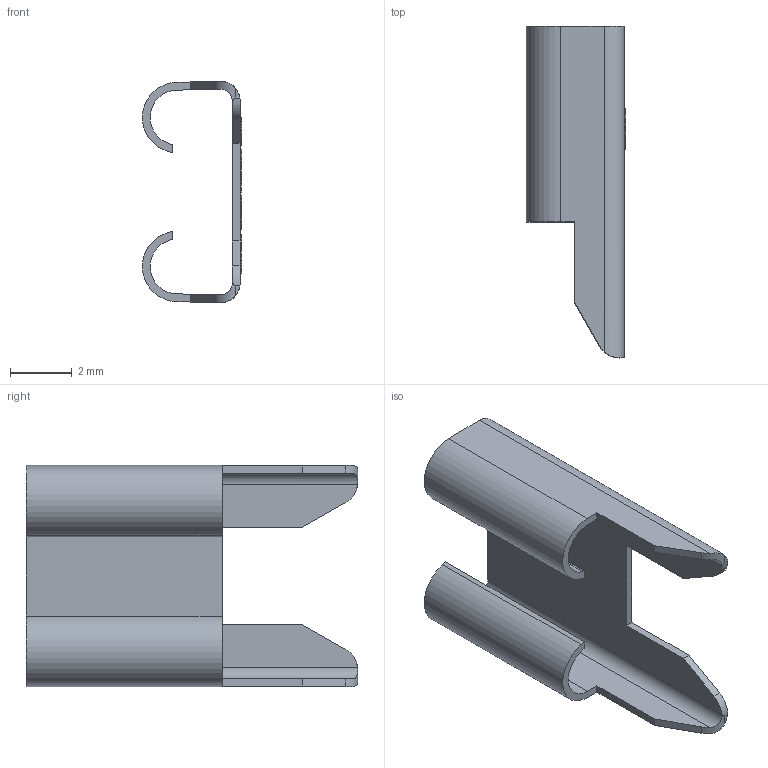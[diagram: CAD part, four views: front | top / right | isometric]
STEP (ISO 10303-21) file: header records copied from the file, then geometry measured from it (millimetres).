
FILE_DESCRIPTION(/* description */ (''),/* implementation_level */ '2;1');
FILE_NAME(/* name */ 'C:\Users\Hani\Desktop\work\CNR-01\CNR-01.stp',/* time_stamp */ '2021-08-22T12:19:45-07:00',/* author */ ('Hani'),/* organization */ (''),/* preprocessor_version */ 'ST-DEVELOPER v17',/* originating_system */ 'Autodesk Inventor 2019',/* authorisation */ '');
FILE_SCHEMA (('AUTOMOTIVE_DESIGN { 1 0 10303 214 3 1 1 }'));
Length unit declared in the file: inch
Products named in the file (1): CNR-01
Bounding box: 3.22 x 10.75 x 7.17 mm (x, y, z)
Volume: 32.5 mm3; surface area: 272.2 mm2
Topology: 1 solids, 1 shells, 174 faces, 480 edges, 320 vertices
Faces by surface type: plane 95, bspline 67, cylinder 12
Entity records: 6145 total; most frequent: CARTESIAN_POINT 2096, ORIENTED_EDGE 960, DIRECTION 580, EDGE_CURVE 480, VERTEX_POINT 320, LINE 316, VECTOR 316, EDGE_LOOP 186
